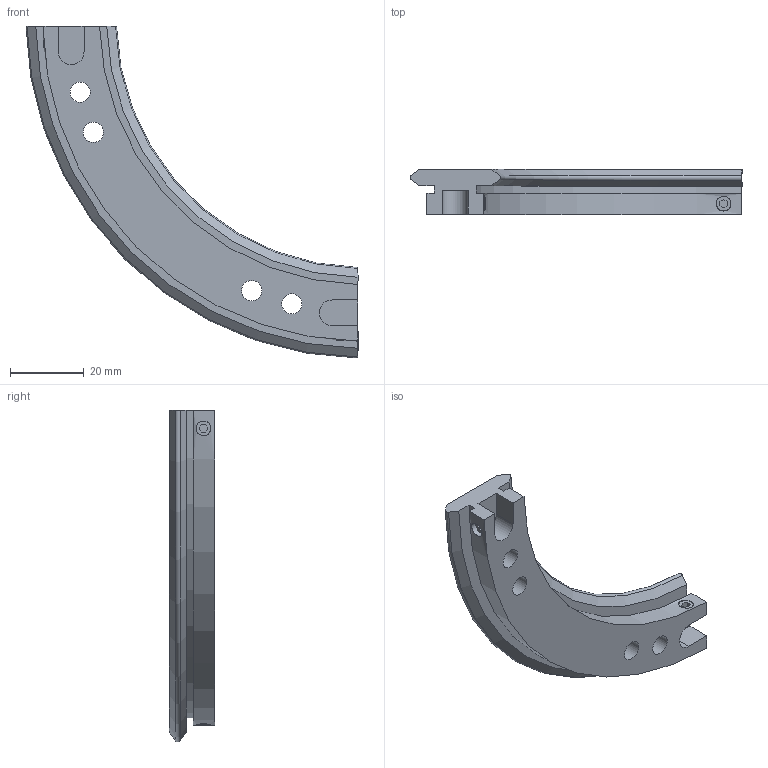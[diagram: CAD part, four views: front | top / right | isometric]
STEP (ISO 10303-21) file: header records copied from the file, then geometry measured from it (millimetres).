
FILE_DESCRIPTION( ( 'STEP AP203' ), '1' );
FILE_NAME( 'p:/temp/worker_23/temp/exporttempdir_3716_749_6zM7X/format_0/TR25 159 R90.stp', '2021-09-17T07:38:49', ( 'License CC BY-ND 4.0' ), ( 'CADENAS' ), ' ', 'PARTsolutions', ' ' );
FILE_SCHEMA( ( 'CONFIG_CONTROL_DESIGN' ) );
Length unit declared in the file: millimetre
Products named in the file (1): _TR25 159 R90
Bounding box: 90.29 x 12.25 x 90.29 mm (x, y, z)
Volume: 22791.2 mm3; surface area: 10966 mm2
Topology: 1 solids, 1 shells, 74 faces, 182 edges, 122 vertices
Faces by surface type: plane 50, cylinder 18, cone 4, torus 2
Full cylindrical faces by diameter (mm): 4 x4, 5.5 x4, 9 x4
Entity records: 2416 total; most frequent: CARTESIAN_POINT 647, DIRECTION 342, ORIENTED_EDGE 336, EDGE_CURVE 168, VERTEX_POINT 120, AXIS2_PLACEMENT_3D 115, LINE 112, VECTOR 112
